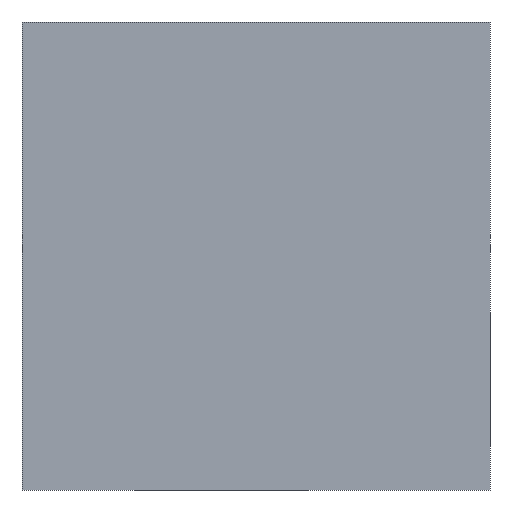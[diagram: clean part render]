
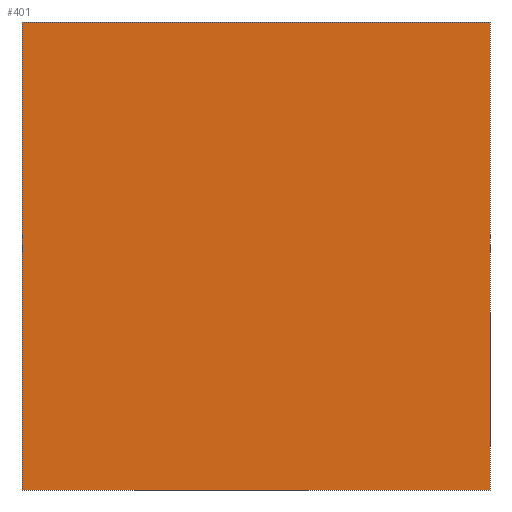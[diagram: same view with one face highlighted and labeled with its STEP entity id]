
A CAD part, front view. The second image highlights one B-rep face of the part: STEP entity #401.
In plain terms, the highlighted planar face has unit normal (0, -1, 0).
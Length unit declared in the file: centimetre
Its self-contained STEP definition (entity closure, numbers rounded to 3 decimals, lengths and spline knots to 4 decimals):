
#22 = LINE ( 'NONE', #515, #445 ) ;
#51 = VERTEX_POINT ( 'NONE', #424 ) ;
#84 = DIRECTION ( 'NONE',  ( 0., 1., 0. ) ) ;
#89 = ORIENTED_EDGE ( 'NONE', *, *, #90, .T. ) ;
#90 = EDGE_CURVE ( 'NONE', #183, #51, #633, .T. ) ;
#109 = LINE ( 'NONE', #112, #130 ) ;
#112 = CARTESIAN_POINT ( 'NONE',  ( 0., 0., 1000. ) ) ;
#122 = EDGE_LOOP ( 'NONE', ( #580, #392, #165, #89 ) ) ;
#130 = VECTOR ( 'NONE', #452, 100. ) ;
#165 = ORIENTED_EDGE ( 'NONE', *, *, #608, .F. ) ;
#181 = CARTESIAN_POINT ( 'NONE',  ( 0., 0., 0. ) ) ;
#183 = VERTEX_POINT ( 'NONE', #253 ) ;
#184 = DIRECTION ( 'NONE',  ( 0., 0., -1. ) ) ;
#194 = FACE_OUTER_BOUND ( 'NONE', #122, .T. ) ;
#230 = DIRECTION ( 'NONE',  ( 0., 0., -1. ) ) ;
#233 = VERTEX_POINT ( 'NONE', #545 ) ;
#253 = CARTESIAN_POINT ( 'NONE',  ( 0., 0., 1000. ) ) ;
#260 = VERTEX_POINT ( 'NONE', #593 ) ;
#281 = VECTOR ( 'NONE', #380, 100. ) ;
#335 = PLANE ( 'NONE',  #498 ) ;
#347 = CARTESIAN_POINT ( 'NONE',  ( 0., 0., 1000. ) ) ;
#380 = DIRECTION ( 'NONE',  ( 1., 0., 0. ) ) ;
#389 = LINE ( 'NONE', #181, #281 ) ;
#392 = ORIENTED_EDGE ( 'NONE', *, *, #563, .F. ) ;
#401 = ADVANCED_FACE ( 'NONE', ( #194 ), #335, .F. ) ;
#414 = EDGE_CURVE ( 'NONE', #51, #260, #389, .T. ) ;
#420 = CARTESIAN_POINT ( 'NONE',  ( 0., 0., 1000. ) ) ;
#424 = CARTESIAN_POINT ( 'NONE',  ( 0., 0., 0. ) ) ;
#445 = VECTOR ( 'NONE', #230, 100. ) ;
#452 = DIRECTION ( 'NONE',  ( 1., 0., 0. ) ) ;
#498 = AXIS2_PLACEMENT_3D ( 'NONE', #420, #84, #623 ) ;
#515 = CARTESIAN_POINT ( 'NONE',  ( 1000., 0., 1000. ) ) ;
#545 = CARTESIAN_POINT ( 'NONE',  ( 1000., 0., 1000. ) ) ;
#563 = EDGE_CURVE ( 'NONE', #233, #260, #22, .T. ) ;
#580 = ORIENTED_EDGE ( 'NONE', *, *, #414, .T. ) ;
#593 = CARTESIAN_POINT ( 'NONE',  ( 1000., 0., 0. ) ) ;
#608 = EDGE_CURVE ( 'NONE', #183, #233, #109, .T. ) ;
#619 = VECTOR ( 'NONE', #184, 100. ) ;
#623 = DIRECTION ( 'NONE',  ( 0., 0., 1. ) ) ;
#633 = LINE ( 'NONE', #347, #619 ) ;
